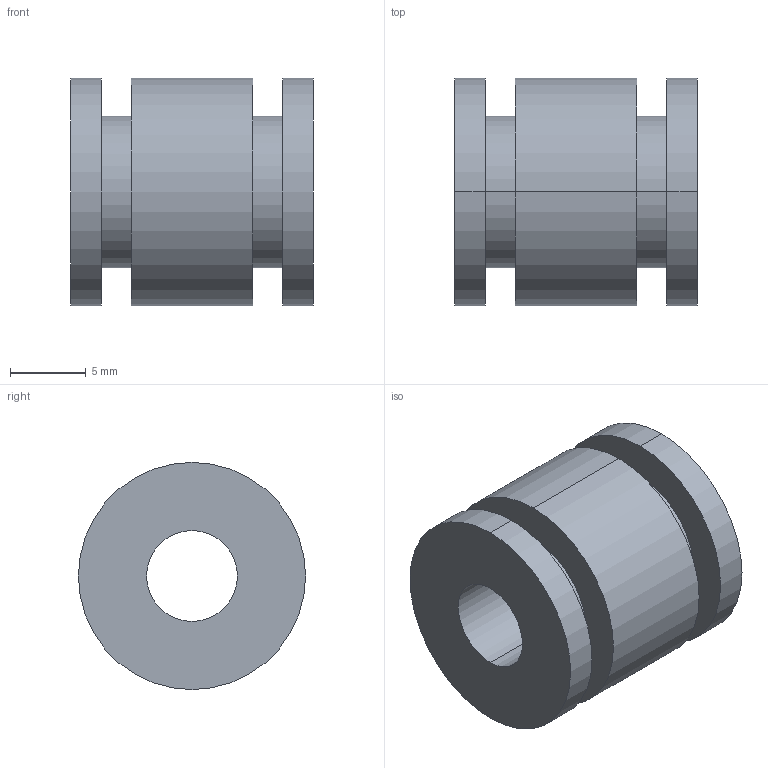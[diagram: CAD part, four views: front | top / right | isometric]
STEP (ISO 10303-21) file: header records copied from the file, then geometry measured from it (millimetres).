
FILE_DESCRIPTION (( 'STEP AP214' ), '1' );
FILE_NAME ('shock_absorber.STEP', '2026-02-22T20:20:44', ( '' ), ( '' ), 'SwSTEP 2.0', 'SolidWorks 2024', '' );
FILE_SCHEMA (( 'AUTOMOTIVE_DESIGN' ));
Length unit declared in the file: millimetre
Products named in the file (1): shock_absorber
Bounding box: 16 x 15 x 15 mm (x, y, z)
Volume: 1739.4 mm3; surface area: 1786.8 mm2
Topology: 1 solids, 1 shells, 26 faces, 52 edges, 32 vertices
Faces by surface type: cylinder 16, plane 6, cone 4
Entity records: 711 total; most frequent: DIRECTION 138, CARTESIAN_POINT 111, ORIENTED_EDGE 104, AXIS2_PLACEMENT_3D 59, EDGE_CURVE 52, EDGE_LOOP 32, CIRCLE 32, VERTEX_POINT 32
